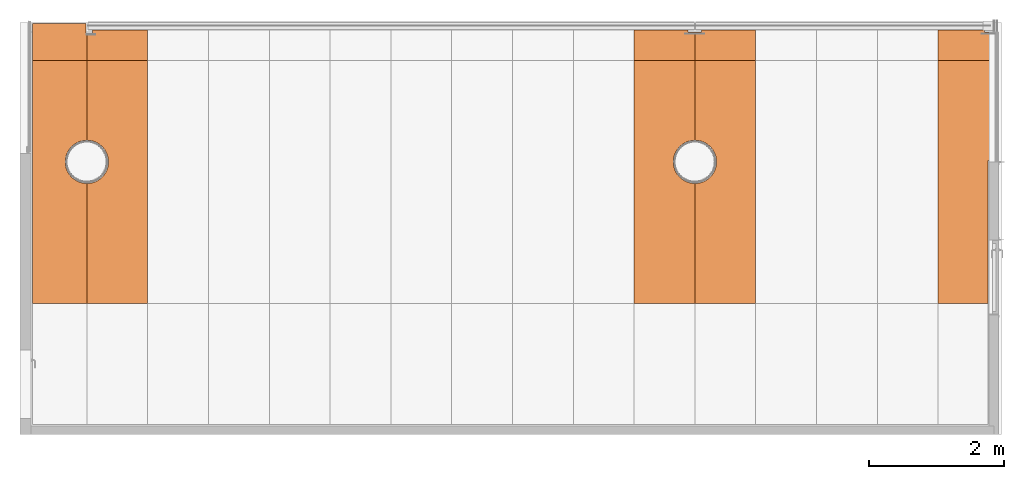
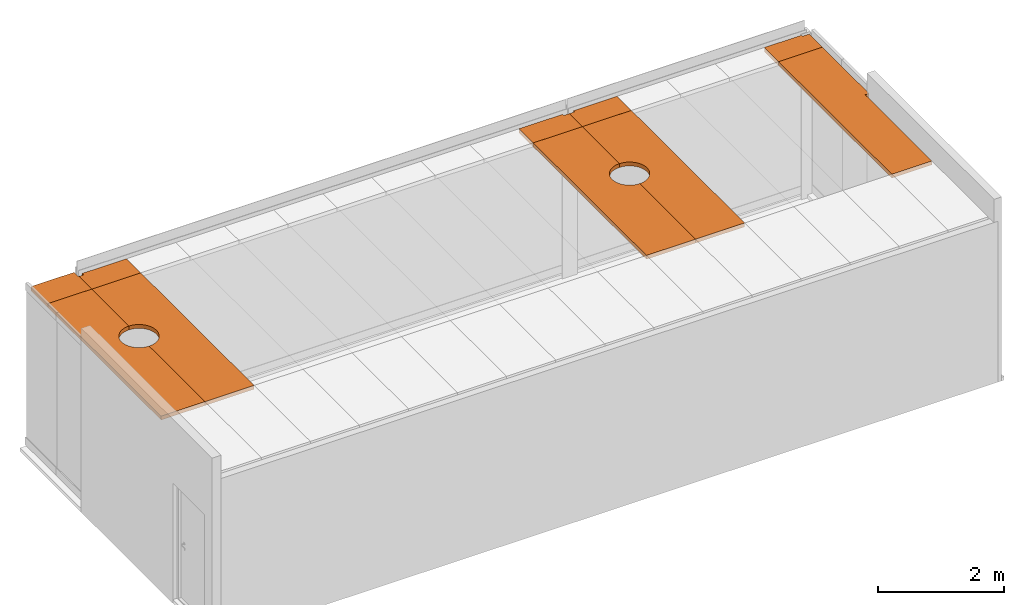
# One storey, part 12 of 12: 10 proxies, 1 element without a shape of its own.
"""IFC2X3 building model written with IfcOpenShell, lengths in millimetres."""

from ifc_helpers import new_model, entity, si_unit, converted_unit, derived_unit, direction, frame, frame_2d, origin, origin_with_axes, place, context, subcontext, project, spatial, polyline, circle_curve, parameter, trimmed, segment, composite_curve, outline, extrude, source, transform, mapped, material, type_object, element, aggregate, save


model = new_model("IFC2X3")

# Units and contexts
model_context = context("Model", 3, precision=0.01, world=frame((0.0, 4.29681676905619e-09, 0.0)), true_north=direction((6.12323399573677e-17, 1.0)))
plan_context = context("Plan", 3, precision=0.01, world=frame((0.0, 4.29681676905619e-09, 0.0)), true_north=direction((6.12323399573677e-17, 1.0)))
body_context = subcontext(model_context, "Body", "Model", "MODEL_VIEW")
ifc_project = project(units=[converted_unit("PLANEANGLEUNIT", "DEGREE", entity("IfcPositiveLengthMeasure", 0.0174532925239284), si_unit("PLANEANGLEUNIT", "RADIAN"), dimensions=[0, 0, 0, 0, 0, 0, 0]), si_unit("AREAUNIT", "SQUARE_METRE"), si_unit("LENGTHUNIT", "METRE", prefix="MILLI"), si_unit("MASSUNIT", "GRAM", prefix="KILO"), si_unit("POWERUNIT", "WATT"), si_unit("PRESSUREUNIT", "PASCAL", prefix="KILO"), si_unit("FORCEUNIT", "NEWTON", prefix="KILO"), si_unit("ELECTRICVOLTAGEUNIT", "VOLT"), si_unit("ELECTRICCURRENTUNIT", "AMPERE"), si_unit("THERMODYNAMICTEMPERATUREUNIT", "DEGREE_CELSIUS"), si_unit("TIMEUNIT", "SECOND"), si_unit("VOLUMEUNIT", "CUBIC_METRE"), derived_unit("LINEARVELOCITYUNIT", [(si_unit("LENGTHUNIT", "METRE"), 1), (si_unit("TIMEUNIT", "SECOND"), -1)]), derived_unit("VOLUMETRICFLOWRATEUNIT", [(si_unit("VOLUMEUNIT", "CUBIC_METRE"), 1), (si_unit("TIMEUNIT", "SECOND"), -1)]), derived_unit("THERMALTRANSMITTANCEUNIT", [(si_unit("POWERUNIT", "WATT"), 1), (si_unit("THERMODYNAMICTEMPERATUREUNIT", "KELVIN"), -1), (si_unit("AREAUNIT", "SQUARE_METRE"), -1)]), derived_unit("SOUNDPRESSUREUNIT", [(si_unit("PRESSUREUNIT", "PASCAL"), 1)])], contexts=[model_context, plan_context])

# Site, building, storey
site_placement = place(None, origin_with_axes())
site = spatial("IfcSite", under=ifc_project, at=site_placement, Name="ENGM", CompositionType="ELEMENT")
building_placement = place(site_placement, origin_with_axes())
building = spatial("IfcBuilding", under=site, at=building_placement, Name="TH", CompositionType="ELEMENT")
storey_placement = place(building_placement, frame((0.0, 0.0, 210200.0), z_axis=(0.0, 0.0, 1.0), x_axis=(1.0, 0.0, 0.0)))
storey = spatial("IfcBuildingStorey", under=building, at=storey_placement, Name="Nivå F - 0,7 m", CompositionType="ELEMENT", Elevation=210200.0)

# Covering, proxies
covering_placement = place(storey_placement, frame((0.0, 0.0, -210200.0), z_axis=(0.0, 0.0, 1.0), x_axis=(1.0, 0.0, 0.0)))
covering = element("IfcCovering", 1, at=covering_placement, inside=storey, Name="Sloped Glazing:A255 - HI-L01- Lamellhimling", ObjectType="Sloped Glazing:A255 - HI-L01- Lamellhimling", PredefinedType="CEILING")
ifc_material = material(Name="lamellhimling(Panel)")
building_element_proxy_type_1 = type_object("IfcBuildingElementProxyType", Name="System Panel:A255 - HI-L01 - SP", PredefinedType="NOTDEFINED", material=ifc_material)
shared_shape_1 = source(origin(), body_context, "Body", "SweptSolid", [
    extrude(outline(composite_curve([segment(polyline([(-1927.50000000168, -529.285714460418), (1672.49999999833, -529.285714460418)]), True, "CONTINUOUS"), segment(polyline([(1672.49999999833, -529.285714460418), (1672.49999999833, 275.714285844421)]), True, "CONTINUOUS"), segment(polyline([(1672.49999999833, 275.714285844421), (490.0, 275.714285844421)]), True, "CONTINUOUS"), segment(trimmed(circle_curve(frame_2d((170.0, 275.714285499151), x_axis=(1.0, 1.07897335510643e-09)), 319.999999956), [parameter(269.999999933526)], [parameter(360.0)], True, "PARAMETER"), False, "CONTINUOUS"), segment(trimmed(circle_curve(frame_2d((170.0, 275.714285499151), x_axis=(0.0, -1.0)), 319.999999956), [parameter(269.999999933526)], [parameter(360.0)], True, "PARAMETER"), False, "CONTINUOUS"), segment(polyline([(-150.0, 275.714285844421), (-1927.50000000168, 275.714285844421)]), True, "CONTINUOUS"), segment(polyline([(-1927.50000000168, 275.714285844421), (-1927.50000000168, -529.285714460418)]), True, "CONTINUOUS")], self_intersect=False)), frame((126.785714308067, -75.0, 1927.50000000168), z_axis=(0.0, 1.0, 0.0), x_axis=(0.0, 0.0, 1.0)), (0.0, 0.0, 1.0), 75.0),
])
proxy_1_placement = place(covering_placement, frame((1116597.50000016, 464302.499999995, 213200.0), z_axis=(0.0, 1.0, 0.0), x_axis=(1.0, 0.0, 0.0)))
proxy_1 = element("IfcBuildingElementProxy", 2, at=proxy_1_placement, type_object=building_element_proxy_type_1, material=ifc_material, Name="System Panel:A255 - HI-L01 - SP", ObjectType="System Panel:A255 - HI-L01 - SP", context=body_context, shape_type="MappedRepresentation", body=[
    mapped(shared_shape_1, transform((0.0, 0.0, 0.0), scale=1.0)),
])
building_element_proxy_type_2 = type_object("IfcBuildingElementProxyType", Name="System Panel:A255 - HI-L01 - SP", PredefinedType="NOTDEFINED", material=ifc_material)
shared_shape_2 = source(origin(), body_context, "Body", "SweptSolid", [
    extrude(outline(composite_curve([segment(polyline([(-1927.49999999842, -302.857142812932), (-150.0, -302.857142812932)]), True, "CONTINUOUS"), segment(trimmed(circle_curve(frame_2d((170.0, -302.857143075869), x_axis=(-1.0, 0.0)), 319.999999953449), [parameter(270.000000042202)], [parameter(360.0)], True, "PARAMETER"), False, "CONTINUOUS"), segment(trimmed(circle_curve(frame_2d((170.0, -302.857143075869), x_axis=(0.0, 1.0)), 319.999999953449), [parameter(270.000000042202)], [parameter(360.0)], True, "PARAMETER"), False, "CONTINUOUS"), segment(polyline([(490.0, -302.857142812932), (1672.50000000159, -302.857142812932)]), True, "CONTINUOUS"), segment(polyline([(1672.50000000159, -302.857142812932), (1672.50000000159, 597.142857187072)]), True, "CONTINUOUS"), segment(polyline([(1672.50000000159, 597.142857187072), (-1927.49999999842, 597.142857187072)]), True, "CONTINUOUS"), segment(polyline([(-1927.49999999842, 597.142857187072), (-1927.49999999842, -302.857142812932)]), True, "CONTINUOUS")], self_intersect=False)), frame((-147.142857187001, -75.0, 1927.49999999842), z_axis=(0.0, 1.0, 0.0), x_axis=(0.0, 0.0, 1.0)), (0.0, 0.0, 1.0), 75.0),
])
proxy_2_placement = place(covering_placement, frame((1117450.00000031, 464302.499999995, 213200.0), z_axis=(0.0, 1.0, 0.0), x_axis=(1.0, 0.0, 0.0)))
proxy_2 = element("IfcBuildingElementProxy", 3, at=proxy_2_placement, type_object=building_element_proxy_type_2, material=ifc_material, Name="System Panel:A255 - HI-L01 - SP", ObjectType="System Panel:A255 - HI-L01 - SP", context=body_context, shape_type="MappedRepresentation", body=[
    mapped(shared_shape_2, transform((0.0, 0.0, 0.0), scale=1.0)),
])
proxy_3_placement = place(covering_placement, frame((1126450.00000031, 464302.499999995, 213200.0), z_axis=(0.0, 1.0, 0.0), x_axis=(1.0, 0.0, 0.0)))
proxy_3 = element("IfcBuildingElementProxy", 4, at=proxy_3_placement, type_object=building_element_proxy_type_2, material=ifc_material, Name="System Panel:A255 - HI-L01 - SP", ObjectType="System Panel:A255 - HI-L01 - SP", context=body_context, shape_type="MappedRepresentation", body=[
    mapped(shared_shape_2, transform((0.0, 0.0, 0.0), scale=1.0)),
])
building_element_proxy_type_3 = type_object("IfcBuildingElementProxyType", Name="System Panel:A255 - HI-L01 - SP", PredefinedType="NOTDEFINED", material=ifc_material)
shared_shape_3 = source(origin(), body_context, "Body", "SweptSolid", [
    extrude(outline(composite_curve([segment(polyline([(-1927.50000000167, -597.142857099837), (1672.49999999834, -597.142857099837)]), True, "CONTINUOUS"), segment(polyline([(1672.49999999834, -597.142857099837), (1672.49999999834, 302.857142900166)]), True, "CONTINUOUS"), segment(polyline([(1672.49999999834, 302.857142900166), (490.0, 302.857142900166)]), True, "CONTINUOUS"), segment(trimmed(circle_curve(frame_2d((170.0, 302.857142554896), x_axis=(1.0, 1.07897335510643e-09)), 319.999999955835), [parameter(269.999999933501)], [parameter(360.0)], True, "PARAMETER"), False, "CONTINUOUS"), segment(trimmed(circle_curve(frame_2d((170.0, 302.857142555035), x_axis=(0.0, -1.0)), 319.999999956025), [parameter(269.999999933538)], [parameter(360.0)], True, "PARAMETER"), False, "CONTINUOUS"), segment(polyline([(-150.0, 302.857142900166), (-1927.50000000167, 302.857142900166)]), True, "CONTINUOUS"), segment(polyline([(-1927.50000000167, 302.857142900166), (-1927.50000000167, -597.142857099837)]), True, "CONTINUOUS")], self_intersect=False)), frame((147.142857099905, -75.0, 1927.50000000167), z_axis=(0.0, 1.0, 0.0), x_axis=(0.0, 0.0, 1.0)), (0.0, 0.0, 1.0), 75.0),
])
proxy_4_placement = place(covering_placement, frame((1125550.00000031, 464302.499999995, 213200.0), z_axis=(0.0, 1.0, 0.0), x_axis=(1.0, 0.0, 0.0)))
proxy_4 = element("IfcBuildingElementProxy", 5, at=proxy_4_placement, type_object=building_element_proxy_type_3, material=ifc_material, Name="System Panel:A255 - HI-L01 - SP", ObjectType="System Panel:A255 - HI-L01 - SP", context=body_context, shape_type="MappedRepresentation", body=[
    mapped(shared_shape_3, transform((0.0, 0.0, 0.0), scale=1.0)),
])
building_element_proxy_type_4 = type_object("IfcBuildingElementProxyType", Name="System Panel:A255 - HI-L01 - SP", PredefinedType="NOTDEFINED", material=ifc_material)
shared_shape_4 = source(origin(), body_context, "Body", "SweptSolid", [
    extrude(outline(polyline([(-1905.83333333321, -513.199894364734), (1694.1666666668, -513.199894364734), (1694.1666666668, 291.599947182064), (211.666666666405, 291.599947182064), (211.666666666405, 221.599947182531), (-1905.83333333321, 221.599947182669), (-1905.83333333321, -513.199894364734)])), frame((110.799973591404, -75.0, 1905.83333333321), z_axis=(0.0, 1.0, 0.0), x_axis=(0.0, 0.0, 1.0)), (0.0, 0.0, 1.0), 75.0),
])
proxy_5_placement = place(covering_placement, frame((1130002.39992108, 464302.499999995, 213200.0), z_axis=(0.0, 1.0, 0.0), x_axis=(1.0, 0.0, 0.0)))
proxy_5 = element("IfcBuildingElementProxy", 6, at=proxy_5_placement, type_object=building_element_proxy_type_4, material=ifc_material, Name="System Panel:A255 - HI-L01 - SP", ObjectType="System Panel:A255 - HI-L01 - SP", context=body_context, shape_type="MappedRepresentation", body=[
    mapped(shared_shape_4, transform((0.0, 0.0, 0.0), scale=1.0)),
])
building_element_proxy_type_5 = type_object("IfcBuildingElementProxyType", Name="System Panel:A255 - HI-L01 - SP", PredefinedType="NOTDEFINED", material=ifc_material)
shared_shape_5 = source(origin(), body_context, "Body", "SweptSolid", [
    extrude(outline(polyline([(-316.666666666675, -533.333333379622), (225.833333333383, -533.333333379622), (225.833333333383, 261.666666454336), (90.8333333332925, 261.666666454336), (90.8333333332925, 271.666666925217), (-316.666666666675, 271.666666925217), (-316.666666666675, -533.333333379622)])), frame((130.833333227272, -75.0, 316.666666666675), z_axis=(0.0, 1.0, 0.0), x_axis=(0.0, 0.0, 1.0)), (0.0, 0.0, 1.0), 75.0),
])
proxy_6_placement = place(covering_placement, frame((1116597.50000016, 467902.499999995, 213200.0), z_axis=(0.0, 1.0, 0.0), x_axis=(1.0, 0.0, 0.0)))
proxy_6 = element("IfcBuildingElementProxy", 7, at=proxy_6_placement, type_object=building_element_proxy_type_5, material=ifc_material, Name="System Panel:A255 - HI-L01 - SP", ObjectType="System Panel:A255 - HI-L01 - SP", context=body_context, shape_type="MappedRepresentation", body=[
    mapped(shared_shape_5, transform((0.0, 0.0, 0.0), scale=1.0)),
])
building_element_proxy_type_6 = type_object("IfcBuildingElementProxyType", Name="System Panel:A255 - HI-L01 - SP", PredefinedType="NOTDEFINED", material=ifc_material)
shared_shape_6 = source(origin(), body_context, "Body", "SweptSolid", [
    extrude(outline(polyline([(-286.500000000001, -328.333333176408), (121.0, -328.333333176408), (121.0, -243.333333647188), (165.500000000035, -243.333333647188), (165.500000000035, 571.666666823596), (-286.500000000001, 571.666666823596), (-286.500000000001, -328.333333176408)])), frame((-121.666666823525, -75.0, 286.500000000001), z_axis=(0.0, 1.0, 0.0), x_axis=(0.0, 0.0, 1.0)), (0.0, 0.0, 1.0), 75.0),
])
proxy_7_placement = place(covering_placement, frame((1117450.00000031, 467902.499999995, 213200.0), z_axis=(0.0, 1.0, 0.0), x_axis=(1.0, 0.0, 0.0)))
proxy_7 = element("IfcBuildingElementProxy", 8, at=proxy_7_placement, type_object=building_element_proxy_type_6, material=ifc_material, Name="System Panel:A255 - HI-L01 - SP", ObjectType="System Panel:A255 - HI-L01 - SP", context=body_context, shape_type="MappedRepresentation", body=[
    mapped(shared_shape_6, transform((0.0, 0.0, 0.0), scale=1.0)),
])
building_element_proxy_type_7 = type_object("IfcBuildingElementProxyType", Name="System Panel:A255 - HI-L01 - SP", PredefinedType="NOTDEFINED", material=ifc_material)
shared_shape_7 = source(origin(), body_context, "Body", "SweptSolid", [
    extrude(outline(polyline([(-289.500000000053, -566.666666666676), (162.499999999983, -566.666666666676), (162.499999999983, 233.333333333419), (127.0, 233.33333333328), (127.0, 333.333333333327), (-289.500000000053, 333.333333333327), (-289.500000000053, -566.666666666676)])), frame((116.666666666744, -75.0, 289.500000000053), z_axis=(0.0, 1.0, 0.0), x_axis=(0.0, 0.0, 1.0)), (0.0, 0.0, 1.0), 75.0),
])
proxy_8_placement = place(covering_placement, frame((1125550.00000031, 467902.499999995, 213200.0), z_axis=(0.0, 1.0, 0.0), x_axis=(1.0, 0.0, 0.0)))
proxy_8 = element("IfcBuildingElementProxy", 9, at=proxy_8_placement, type_object=building_element_proxy_type_7, material=ifc_material, Name="System Panel:A255 - HI-L01 - SP", ObjectType="System Panel:A255 - HI-L01 - SP", context=body_context, shape_type="MappedRepresentation", body=[
    mapped(shared_shape_7, transform((0.0, 0.0, 0.0), scale=1.0)),
])
building_element_proxy_type_8 = type_object("IfcBuildingElementProxyType", Name="System Panel:A255 - HI-L01 - SP", PredefinedType="NOTDEFINED", material=ifc_material)
shared_shape_8 = source(origin(), body_context, "Body", "SweptSolid", [
    extrude(outline(polyline([(-289.500000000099, -333.333333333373), (127.0, -333.333333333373), (127.0, -233.333333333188), (162.500000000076, -233.333333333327), (162.500000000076, 566.66666666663), (-289.500000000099, 566.66666666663), (-289.500000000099, -333.333333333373)])), frame((-116.666666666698, -75.0, 289.500000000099), z_axis=(0.0, 1.0, 0.0), x_axis=(0.0, 0.0, 1.0)), (0.0, 0.0, 1.0), 75.0),
])
proxy_9_placement = place(covering_placement, frame((1126450.00000031, 467902.499999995, 213200.0), z_axis=(0.0, 1.0, 0.0), x_axis=(1.0, 0.0, 0.0)))
proxy_9 = element("IfcBuildingElementProxy", 10, at=proxy_9_placement, type_object=building_element_proxy_type_8, material=ifc_material, Name="System Panel:A255 - HI-L01 - SP", ObjectType="System Panel:A255 - HI-L01 - SP", context=body_context, shape_type="MappedRepresentation", body=[
    mapped(shared_shape_8, transform((0.0, 0.0, 0.0), scale=1.0)),
])
building_element_proxy_type_9 = type_object("IfcBuildingElementProxyType", Name="System Panel:A255 - HI-L01 - SP", PredefinedType="NOTDEFINED", material=ifc_material)
shared_shape_9 = source(origin(), body_context, "Body", "SweptSolid", [
    extrude(outline(polyline([(-289.833333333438, -496.533227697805), (162.166666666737, -496.533227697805), (162.166666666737, 188.266613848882), (127.666666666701, 188.266613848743), (127.666666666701, 308.266613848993), (-289.833333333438, 308.266613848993), (-289.833333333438, -496.533227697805)])), frame((94.1333069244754, -75.0, 289.833333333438), z_axis=(0.0, 1.0, 0.0), x_axis=(0.0, 0.0, 1.0)), (0.0, 0.0, 1.0), 75.0),
])
proxy_10_placement = place(covering_placement, frame((1130002.39992108, 467902.499999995, 213200.0), z_axis=(0.0, 1.0, 0.0), x_axis=(1.0, 0.0, 0.0)))
proxy_10 = element("IfcBuildingElementProxy", 11, at=proxy_10_placement, type_object=building_element_proxy_type_9, material=ifc_material, Name="System Panel:A255 - HI-L01 - SP", ObjectType="System Panel:A255 - HI-L01 - SP", context=body_context, shape_type="MappedRepresentation", body=[
    mapped(shared_shape_9, transform((0.0, 0.0, 0.0), scale=1.0)),
])
aggregate(covering, [proxy_1, proxy_2, proxy_4, proxy_3, proxy_5, proxy_6, proxy_7, proxy_8, proxy_9, proxy_10])

save(model, "model.ifc")
